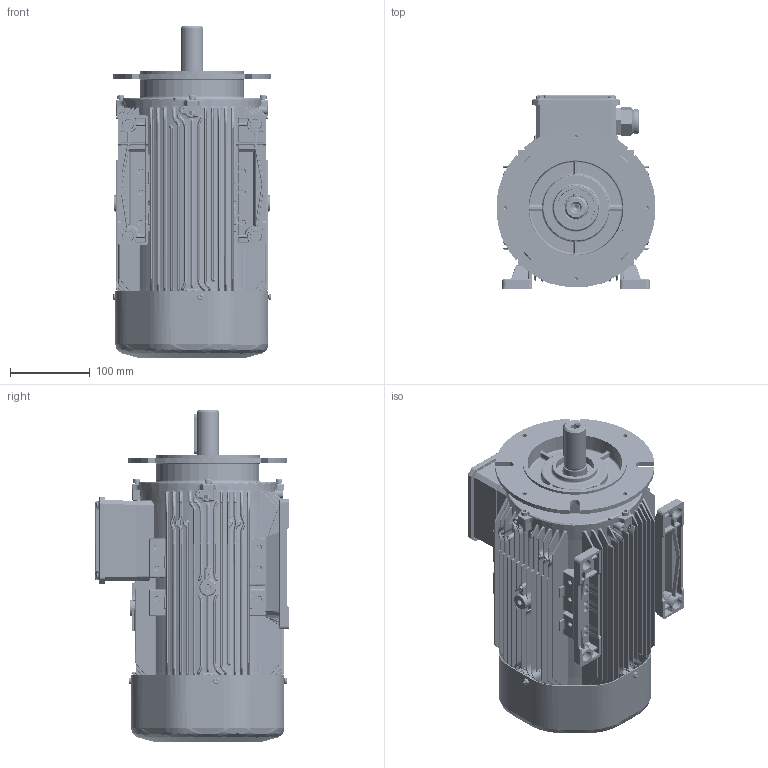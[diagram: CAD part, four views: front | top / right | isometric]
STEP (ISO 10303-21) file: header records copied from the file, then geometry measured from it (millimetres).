
FILE_DESCRIPTION(/* description */ (''),/* implementation_level */ '2;1');
FILE_NAME(/* name */ 'OUTLOOK VIEW QH100 PA B35 - REDUCED FF165 SPL.stp',/* time_stamp */ '2021-09-13T11:48:07+03:00',/* author */ (''),/* organization */ (''),/* preprocessor_version */ 'ST-DEVELOPER v16',/* originating_system */ 'SIEMENS PLM Software NX 11.0',/* authorisation */ '');
FILE_SCHEMA (('AUTOMOTIVE_DESIGN { 1 0 10303 214 3 1 1 1 }'));
Products named in the file (1): 26062CE45B9Cd4nt
Bounding box: 198.85 x 242.65 x 415.31 mm (x, y, z)
Volume: 5249059.6 mm3; surface area: 2020829.3 mm2
Topology: 74 solids, 74 shells, 11958 faces, 29199 edges, 16990 vertices
Faces by surface type: cylinder 3834, bspline 3494, plane 2908, torus 706, cone 536, sphere 414, extrusion 66
Full cylindrical faces by diameter (mm): 3.242 x4, 3.3 x4, 4 x9, 4.722 x3, 5 x20, 5.5 x8, 8 x8, 8.5 x9, 10 x1, 10.5 x1, 18.7 x1, 23.38 x2, 23.9 x1, 24.4 x1, 24.8 x1, 25 x5, 25.2 x1, 27.4 x1, 28 x1, 28.6 x1, 29.4 x1, 30 x3, 31.6 x1, 32 x1, 34 x2, 34.35 x8, 40 x1, 43.95 x4, 44.6 x4, 46.21 x8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
Entity records: 477480 total; most frequent: CARTESIAN_POINT 167951, ORIENTED_EDGE 55812, DIRECTION 51668, EDGE_CURVE 27906, AXIS2_PLACEMENT_3D 20985, VERTEX_POINT 16774, EDGE_LOOP 13072, ADVANCED_FACE 11938
